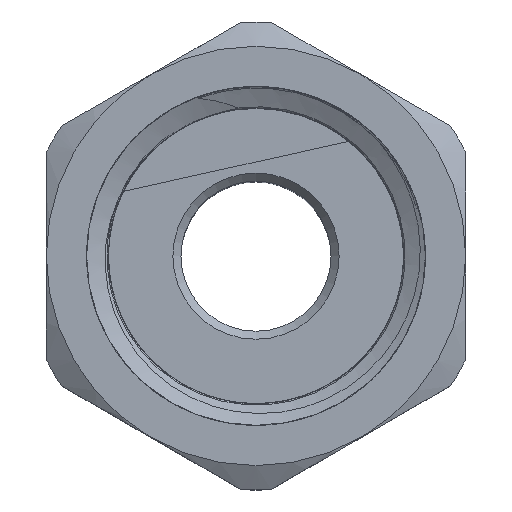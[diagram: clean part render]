
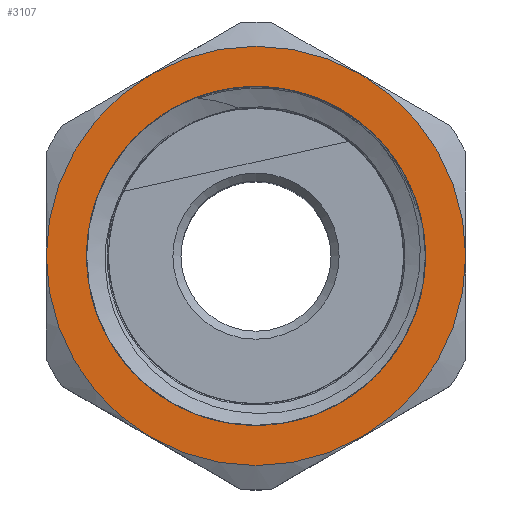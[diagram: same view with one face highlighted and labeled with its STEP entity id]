
A CAD part, top view. The second image highlights one B-rep face of the part: STEP entity #3107.
In plain terms, the highlighted planar face has unit normal (0, 0, 1) as drawn and (0, 0, -1) by its records, which use the part's own axes.
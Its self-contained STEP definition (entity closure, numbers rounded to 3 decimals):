
#74=FACE_BOUND('',#889,.T.);
#540=PLANE('',#3426);
#696=FACE_OUTER_BOUND('',#888,.T.);
#888=EDGE_LOOP('',(#2821,#2822));
#889=EDGE_LOOP('',(#2823,#2824));
#1153=CIRCLE('',#3376,12.997);
#1154=CIRCLE('',#3377,12.997);
#1181=CIRCLE('',#3424,10.5);
#1182=CIRCLE('',#3425,10.5);
#1450=VERTEX_POINT('',#6390);
#1451=VERTEX_POINT('',#6392);
#1481=VERTEX_POINT('',#6503);
#1482=VERTEX_POINT('',#6505);
#1883=EDGE_CURVE('',#1451,#1450,#1153,.T.);
#1884=EDGE_CURVE('',#1450,#1451,#1154,.T.);
#1933=EDGE_CURVE('',#1482,#1481,#1181,.T.);
#1934=EDGE_CURVE('',#1481,#1482,#1182,.T.);
#2821=ORIENTED_EDGE('',*,*,#1883,.T.);
#2822=ORIENTED_EDGE('',*,*,#1884,.T.);
#2823=ORIENTED_EDGE('',*,*,#1933,.T.);
#2824=ORIENTED_EDGE('',*,*,#1934,.T.);
#3107=ADVANCED_FACE('',(#696,#74),#540,.T.);
#3376=AXIS2_PLACEMENT_3D('',#6393,#3994,#3995);
#3377=AXIS2_PLACEMENT_3D('',#6394,#3996,#3997);
#3424=AXIS2_PLACEMENT_3D('',#6506,#4106,#4107);
#3425=AXIS2_PLACEMENT_3D('',#6507,#4108,#4109);
#3426=AXIS2_PLACEMENT_3D('',#6508,#4110,#4111);
#3994=DIRECTION('center_axis',(0.,0.,-1.));
#3995=DIRECTION('ref_axis',(0.,1.,0.));
#3996=DIRECTION('center_axis',(0.,0.,-1.));
#3997=DIRECTION('ref_axis',(0.,1.,0.));
#4106=DIRECTION('center_axis',(0.,0.,1.));
#4107=DIRECTION('ref_axis',(1.,0.,0.));
#4108=DIRECTION('center_axis',(0.,0.,1.));
#4109=DIRECTION('ref_axis',(1.,0.,0.));
#4110=DIRECTION('center_axis',(0.,0.,-1.));
#4111=DIRECTION('ref_axis',(-1.,0.,0.));
#6390=CARTESIAN_POINT('',(0.,-12.997,-0.025));
#6392=CARTESIAN_POINT('',(0.,12.997,-0.025));
#6393=CARTESIAN_POINT('Origin',(0.,0.,-0.025));
#6394=CARTESIAN_POINT('Origin',(0.,0.,-0.025));
#6503=CARTESIAN_POINT('',(0.,10.5,-0.025));
#6505=CARTESIAN_POINT('',(0.,-10.5,-0.025));
#6506=CARTESIAN_POINT('Origin',(0.,0.,-0.025));
#6507=CARTESIAN_POINT('Origin',(0.,0.,-0.025));
#6508=CARTESIAN_POINT('Origin',(0.,-12.997,-0.025));
